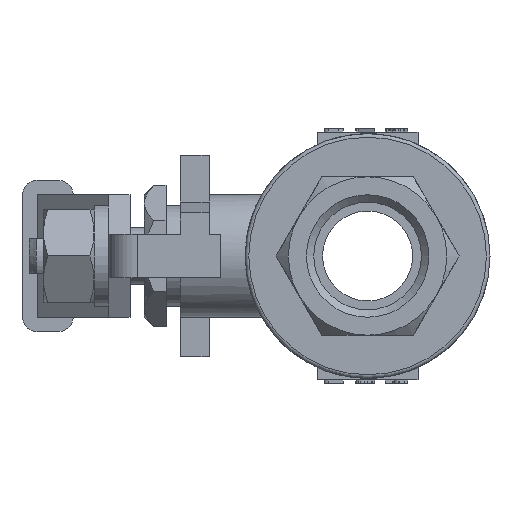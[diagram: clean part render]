
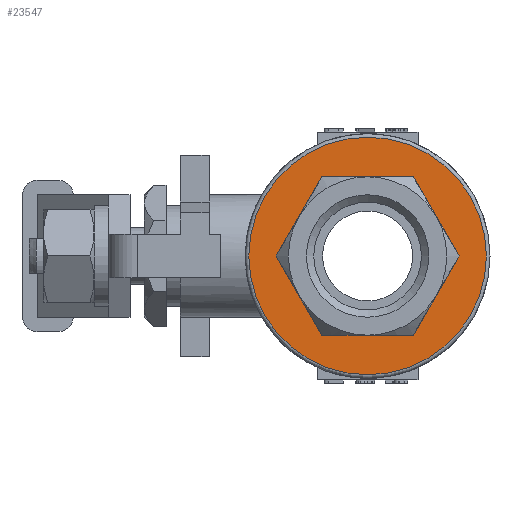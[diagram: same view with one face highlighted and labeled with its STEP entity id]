
A CAD part, left-side view. The second image highlights one B-rep face of the part: STEP entity #23547.
In plain terms, the highlighted planar face has unit normal (-1, 0, 0).
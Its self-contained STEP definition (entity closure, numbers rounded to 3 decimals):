
#372=FACE_BOUND('',#3993,.T.);
#1591=PLANE('',#24742);
#2739=FACE_OUTER_BOUND('',#3992,.T.);
#3992=EDGE_LOOP('',(#21012));
#3993=EDGE_LOOP('',(#21013,#21014,#21015,#21016,#21017,#21018));
#6620=LINE('',#38938,#9234);
#6621=LINE('',#38940,#9235);
#6622=LINE('',#38942,#9236);
#6623=LINE('',#38944,#9237);
#6624=LINE('',#38946,#9238);
#6625=LINE('',#38947,#9239);
#9234=VECTOR('',#29656,10.);
#9235=VECTOR('',#29657,10.);
#9236=VECTOR('',#29658,10.);
#9237=VECTOR('',#29659,10.);
#9238=VECTOR('',#29660,10.);
#9239=VECTOR('',#29661,10.);
#9429=CIRCLE('',#24740,16.5);
#11527=VERTEX_POINT('',#38931);
#11528=VERTEX_POINT('',#38936);
#11529=VERTEX_POINT('',#38937);
#11530=VERTEX_POINT('',#38939);
#11531=VERTEX_POINT('',#38941);
#11532=VERTEX_POINT('',#38943);
#11533=VERTEX_POINT('',#38945);
#14697=EDGE_CURVE('',#11527,#11527,#9429,.T.);
#14699=EDGE_CURVE('',#11528,#11529,#6620,.T.);
#14700=EDGE_CURVE('',#11529,#11530,#6621,.T.);
#14701=EDGE_CURVE('',#11530,#11531,#6622,.T.);
#14702=EDGE_CURVE('',#11531,#11532,#6623,.T.);
#14703=EDGE_CURVE('',#11532,#11533,#6624,.T.);
#14704=EDGE_CURVE('',#11533,#11528,#6625,.T.);
#21012=ORIENTED_EDGE('',*,*,#14697,.F.);
#21013=ORIENTED_EDGE('',*,*,#14699,.T.);
#21014=ORIENTED_EDGE('',*,*,#14700,.T.);
#21015=ORIENTED_EDGE('',*,*,#14701,.T.);
#21016=ORIENTED_EDGE('',*,*,#14702,.T.);
#21017=ORIENTED_EDGE('',*,*,#14703,.T.);
#21018=ORIENTED_EDGE('',*,*,#14704,.T.);
#23547=ADVANCED_FACE('',(#2739,#372),#1591,.T.);
#24740=AXIS2_PLACEMENT_3D('',#38933,#29650,#29651);
#24742=AXIS2_PLACEMENT_3D('',#38935,#29654,#29655);
#29650=DIRECTION('center_axis',(1.,0.,0.));
#29651=DIRECTION('ref_axis',(0.,-1.,0.));
#29654=DIRECTION('center_axis',(-1.,0.,0.));
#29655=DIRECTION('ref_axis',(0.,0.,1.));
#29656=DIRECTION('',(0.,0.5,0.866));
#29657=DIRECTION('',(0.,-0.5,0.866));
#29658=DIRECTION('',(0.,-1.,0.));
#29659=DIRECTION('',(0.,-0.5,-0.866));
#29660=DIRECTION('',(0.,0.5,-0.866));
#29661=DIRECTION('',(0.,1.,0.));
#38931=CARTESIAN_POINT('',(-60.033,-6.088,16.5));
#38933=CARTESIAN_POINT('Origin',(-60.033,-6.088,0.));
#38935=CARTESIAN_POINT('Origin',(-60.033,8.787,0.));
#38936=CARTESIAN_POINT('',(-60.033,0.263,-11.));
#38937=CARTESIAN_POINT('',(-60.033,6.614,0.));
#38938=CARTESIAN_POINT('',(-60.033,0.215,-11.083));
#38939=CARTESIAN_POINT('',(-60.033,0.263,11.));
#38940=CARTESIAN_POINT('',(-60.033,6.662,-0.083));
#38941=CARTESIAN_POINT('',(-60.033,-12.439,11.));
#38942=CARTESIAN_POINT('',(-60.033,0.359,11.));
#38943=CARTESIAN_POINT('',(-60.033,-18.79,0.));
#38944=CARTESIAN_POINT('',(-60.033,-12.391,11.083));
#38945=CARTESIAN_POINT('',(-60.033,-12.439,-11.));
#38946=CARTESIAN_POINT('',(-60.033,-18.838,0.083));
#38947=CARTESIAN_POINT('',(-60.033,-12.535,-11.));
